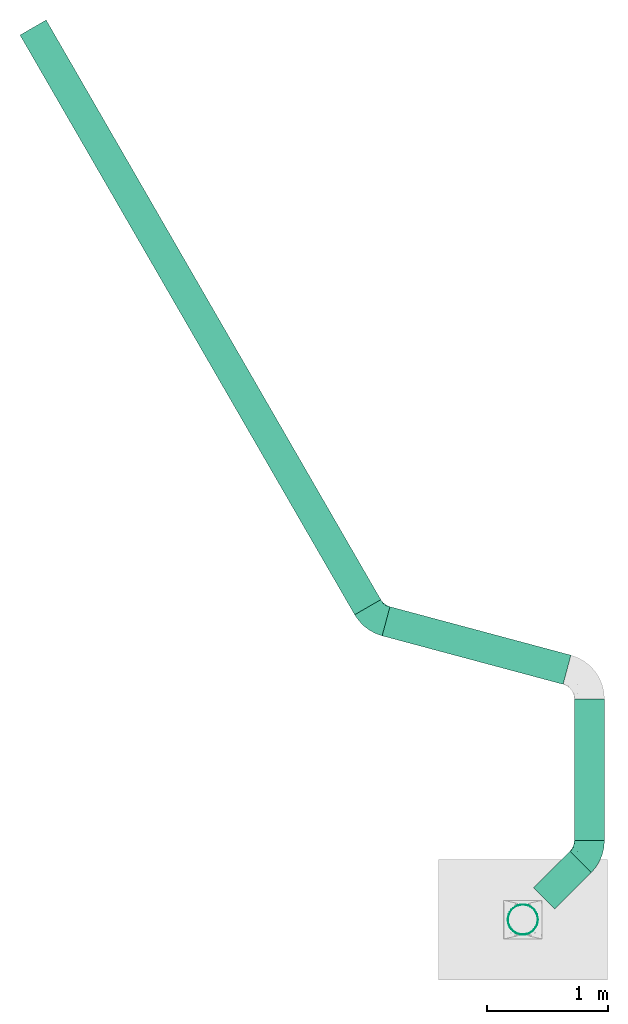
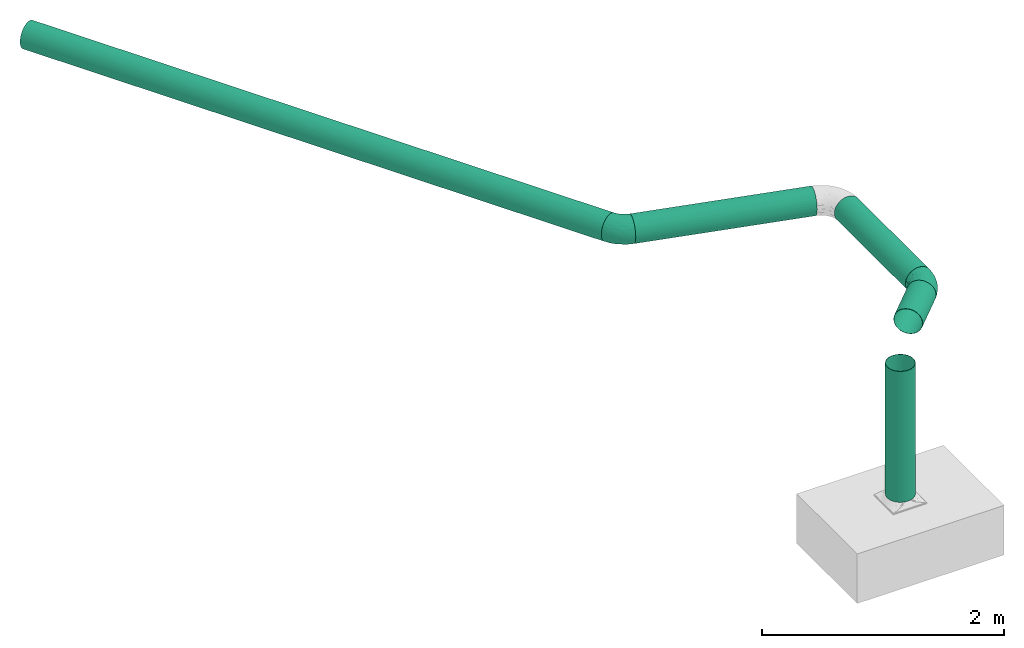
# One storey, part 1 of 3: 5 flow segments, 2 flow fittings.
"""IFC2X3 building model written with IfcOpenShell, lengths in millimetres."""

from ifc_helpers import new_model, entity, si_unit, converted_unit, derived_unit, direction, frame, origin_with_axes, origin_2d_with_axis, place, context, subcontext, project, spatial, hollow_circle, extrude, open_shell, surface_model, source, transform, mapped, type_object, element, save


model = new_model("IFC2X3")

# Units and contexts
model_context = context("Model", 3, precision=0.01, world=frame((0.0, 4.29681676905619e-09, 0.0)), true_north=direction((4.01073788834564e-13, 1.0)))
plan_context = context("Plan", 3, precision=0.01, world=frame((0.0, 4.29681676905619e-09, 0.0)), true_north=direction((4.01073788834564e-13, 1.0)))
body_context = subcontext(model_context, "Body", "Model", "MODEL_VIEW")
ifc_project = project(units=[converted_unit("PLANEANGLEUNIT", "DEGREE", entity("IfcPositiveLengthMeasure", 0.0174532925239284), si_unit("PLANEANGLEUNIT", "RADIAN"), dimensions=[0, 0, 0, 0, 0, 0, 0]), si_unit("AREAUNIT", "SQUARE_METRE"), si_unit("LENGTHUNIT", "METRE", prefix="MILLI"), si_unit("MASSUNIT", "GRAM", prefix="KILO"), si_unit("POWERUNIT", "WATT"), si_unit("PRESSUREUNIT", "PASCAL", prefix="KILO"), si_unit("FORCEUNIT", "NEWTON", prefix="KILO"), si_unit("ELECTRICVOLTAGEUNIT", "VOLT"), si_unit("ELECTRICCURRENTUNIT", "AMPERE"), si_unit("THERMODYNAMICTEMPERATUREUNIT", "DEGREE_CELSIUS"), si_unit("TIMEUNIT", "SECOND"), si_unit("VOLUMEUNIT", "CUBIC_METRE"), derived_unit("LINEARVELOCITYUNIT", [(si_unit("LENGTHUNIT", "METRE"), 1), (si_unit("TIMEUNIT", "SECOND"), -1)]), derived_unit("VOLUMETRICFLOWRATEUNIT", [(si_unit("VOLUMEUNIT", "CUBIC_METRE"), 1), (si_unit("TIMEUNIT", "SECOND"), -1)]), derived_unit("THERMALTRANSMITTANCEUNIT", [(si_unit("POWERUNIT", "WATT"), 1), (si_unit("THERMODYNAMICTEMPERATUREUNIT", "KELVIN"), -1), (si_unit("AREAUNIT", "SQUARE_METRE"), -1)]), derived_unit("SOUNDPRESSUREUNIT", [(si_unit("PRESSUREUNIT", "PASCAL"), 1)])], contexts=[model_context, plan_context])

# Site, building, storey
site_placement = place(None, frame((0.0, -4.29681676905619e-09, 0.0), z_axis=(0.0, 0.0, 1.0), x_axis=(1.0, 0.0, 0.0)))
site = spatial("IfcSite", under=ifc_project, at=site_placement, CompositionType="ELEMENT")
building_placement = place(site_placement, frame((0.0, 4.29681676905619e-09, 0.0), z_axis=(0.0, 0.0, 1.0), x_axis=(1.0, 0.0, 0.0)))
building = spatial("IfcBuilding", under=site, at=building_placement, Name="mc-building", CompositionType="ELEMENT")
storey_placement = place(building_placement, frame((0.0, 0.0, 210200.0), z_axis=(0.0, 0.0, 1.0), x_axis=(1.0, 0.0, 0.0)))
storey = spatial("IfcBuildingStorey", under=building, at=storey_placement, Name="Nivå F -0,7m", CompositionType="ELEMENT", Elevation=210200.0)

# Flow fittings
duct_fitting_type = type_object("IfcDuctFittingType", Name="magicirc_elbow_full_radius_001", PredefinedType="BEND")
shared_shape_1 = source(origin_with_axes(), body_context, "Body", "SurfaceModel", [
    surface_model("IfcShellBasedSurfaceModel", [(-103.55339, -125.0, 0.0), (-103.55339, 125.0, 0.0), (-103.55339, 120.74073, -32.35238), (-103.55339, 108.25318, 62.5), (-103.55339, 120.74073, 32.35238), (-103.55339, 32.35238, 120.74073), (-103.55339, 62.5, 108.25318), (-103.55339, 88.38835, 88.38835), (-103.55339, -32.35238, 120.74073), (-103.55339, 0.0, 125.0), (-103.55339, -62.5, 108.25318), (158.59989, -12.15328, 32.35238), (135.7233, 10.7233, 88.38835), (149.76986, -3.32325, 62.5), (117.41748, 29.02913, 108.25318), (73.22331, 73.22331, 125.0), (96.09989, 50.34672, 120.74073), (-103.55339, -88.38835, 88.38835), (-103.55339, -108.25318, 62.5), (-71.42232, -99.6447, 73.48578), (-44.89046, -120.38313, 0.0), (-57.05973, -120.17346, 21.81428), (92.48445, -15.44439, 96.05752), (-13.29539, -72.83948, 91.44783), (-35.41638, -46.54877, 112.60163), (-53.05843, -76.2135, 95.96477), (-52.80866, -113.87358, 42.93527), (-29.95223, -95.81654, 69.99912), (50.34672, 96.09989, 120.74073), (13.30108, 79.99157, 117.1107), (23.75752, 46.96611, 124.57055), (-74.52069, -49.18357, 114.30556), (-3.32325, 149.76986, 62.5), (-30.68612, 132.62981, 55.80824), (-18.08865, 125.15355, 76.6992), (-50.00916, 16.41095, 124.57055), (-57.84997, -17.26168, 123.19921), (7.53427, -3.80061, 122.03869), (-7.67262, -103.64817, 45.52456), (-22.71583, -114.22791, 21.7641), (13.74429, -103.59286, 24.67287), (116.86608, -53.38137, 0.0), (132.63386, -38.79725, 21.82774), (89.76989, -68.58123, 24.1251), (-60.49109, 116.04155, 60.66825), (-103.55339, -120.74073, 32.35238), (-65.96787, 47.1573, 117.1107), (17.35339, -34.13906, 110.3101), (62.29865, -4.48678, 112.84863), (-76.94339, 99.37776, 78.78589), (-22.72242, 54.85677, 118.83277), (47.3214, -70.36624, 69.17354), (88.93194, -46.57311, 69.99912), (54.20915, -33.92888, 100.13866), (-53.63107, 129.47687, 36.5183), (-71.20101, 129.25927, 0.0), (49.51939, -90.30119, 21.46261), (84.91582, -62.92829, 48.27731), (-41.05339, 141.74683, 0.0), (-12.15328, 158.59989, 32.35238), (-60.64711, 77.02175, 102.33599), (-43.93846, 106.07682, 82.14525), (36.83138, -88.91881, 44.41504), (53.11195, 28.70025, 123.19921), (117.86215, -43.17942, 42.93527), (161.61165, -15.16504, 0.0), (8.25832, -82.08292, 74.46222), (120.96265, -19.95623, 73.48578), (29.02913, 117.41748, 108.25318), (-12.4895, 30.15232, 124.41894), (-15.16504, 161.61165, 0.0), (-11.57862, 97.34658, 102.33599), (10.7233, 135.7233, 88.38835), (12.32798, -106.6462, 0.0), (66.69304, -84.12745, 0.0), (25.11389, -60.63029, 90.50113), (-103.55339, 88.38835, -88.38835), (-60.64711, 77.02175, -102.33599), (-103.55339, 62.5, -108.25318), (135.7233, 10.7233, -88.38835), (149.76986, -3.32325, -62.5), (120.96265, -19.95623, -73.48578), (-40.87917, -47.22443, -112.84863), (-103.55339, -62.5, -108.25318), (-103.55339, -32.35238, -120.74073), (73.22331, 73.22331, -125.0), (53.11196, 28.70025, -123.19921), (23.75752, 46.96611, -124.57055), (-103.55339, 0.0, -125.0), (-103.55339, 32.35238, -120.74073), (-50.00916, 16.41095, -124.57055), (50.34672, 96.09989, -120.74073), (-43.93846, 106.07682, -82.14525), (-11.57864, 97.34658, -102.33598), (-53.63107, 129.47687, -36.5183), (-70.8553, 115.19846, -56.91801), (-76.94339, 99.37776, -78.78589), (28.83707, -98.86808, -21.46261), (-14.98266, -111.97115, -24.12509), (-15.54752, -104.54157, -48.2773), (10.7233, 135.7233, -88.38835), (29.02913, 117.41748, -108.25318), (-52.80866, -113.87358, -42.93527), (-103.55339, -108.25318, -62.5), (-71.42232, -99.6447, -73.48578), (117.86215, -43.17942, -42.93527), (78.71568, -67.86496, -45.52456), (88.93194, -46.57311, -69.99912), (-103.55339, -120.74073, -32.35238), (-66.3525, -121.22011, -21.82773), (-22.72243, 54.85676, -118.83278), (-54.47555, -76.31722, -96.05751), (-57.84997, -17.26168, -123.19921), (-2.64009, -8.01497, -122.03869), (-103.55339, -88.38835, -88.38835), (13.30107, 79.99157, -117.1107), (11.86926, -36.41067, -110.3101), (96.09989, 50.34672, -120.74073), (-12.15328, 158.59989, -32.35238), (-12.4895, 30.15232, -124.41894), (-36.53446, 126.27575, -60.66825), (-3.32325, 149.76986, -62.5), (-15.84865, 124.55254, -78.9227), (-103.55339, 108.25318, -62.5), (-65.96787, 47.1573, -117.1107), (158.59989, -12.15328, -32.35238), (117.41748, 29.02913, -108.25318), (87.47212, 17.91605, -114.30556), (57.95811, -7.87179, -112.60163), (91.40906, -16.37311, -95.96477), (36.83138, -88.91881, -44.41504), (52.20187, -63.88091, -74.46221), (-14.34032, -62.32301, -100.13866), (-29.95223, -95.81654, -69.99911), (96.83384, -64.70882, -21.7641), (63.53252, -82.9699, -24.67287), (16.29516, -83.21773, -69.17354), (125.32279, -44.62815, -21.81428), (60.90656, -42.10403, -91.44783), (25.11389, -60.63029, -90.50113)], [open_shell([[[0, 1, 2]], [[3, 4, 5]], [[5, 6, 7]], [[3, 5, 7]], [[8, 9, 10]], [[11, 12, 13]], [[14, 15, 16]], [[17, 18, 19]], [[0, 20, 21]], [[12, 14, 22]], [[23, 24, 25]], [[19, 26, 27]], [[28, 29, 30]], [[24, 31, 25]], [[32, 33, 34]], [[5, 9, 35]], [[36, 37, 35]], [[10, 31, 8]], [[38, 39, 40]], [[41, 42, 43]], [[3, 44, 4]], [[18, 45, 26]], [[5, 46, 6]], [[37, 47, 48]], [[49, 3, 7]], [[50, 46, 35]], [[24, 23, 47]], [[51, 52, 53]], [[4, 54, 55]], [[56, 43, 57]], [[55, 1, 4]], [[58, 54, 59]], [[26, 38, 27]], [[60, 61, 49]], [[53, 52, 22]], [[40, 56, 62]], [[10, 17, 25]], [[15, 30, 63]], [[9, 36, 35]], [[20, 39, 21]], [[15, 63, 16]], [[13, 64, 11]], [[16, 48, 14]], [[7, 6, 60]], [[11, 42, 65]], [[62, 66, 38]], [[48, 22, 14]], [[57, 43, 64]], [[13, 67, 64]], [[28, 68, 29]], [[26, 39, 38]], [[35, 69, 50]], [[55, 54, 58]], [[49, 44, 3]], [[70, 58, 59]], [[69, 37, 30]], [[59, 54, 33]], [[61, 60, 71]], [[72, 71, 68]], [[46, 60, 6]], [[54, 44, 33]], [[50, 29, 71]], [[34, 71, 72]], [[28, 30, 15]], [[63, 37, 48]], [[50, 71, 60]], [[67, 13, 12]], [[42, 11, 64]], [[9, 8, 36]], [[19, 25, 17]], [[27, 66, 23]], [[53, 22, 48]], [[67, 22, 52]], [[31, 36, 8]], [[37, 36, 24]], [[37, 63, 30]], [[48, 16, 63]], [[35, 46, 5]], [[60, 46, 50]], [[71, 29, 68]], [[30, 29, 50]], [[21, 39, 26]], [[66, 62, 51]], [[20, 73, 39]], [[40, 39, 73]], [[56, 73, 74]], [[62, 38, 40]], [[73, 56, 40]], [[43, 56, 74]], [[41, 43, 74]], [[64, 52, 57]], [[51, 57, 52]], [[56, 57, 62]], [[26, 45, 21]], [[0, 21, 45]], [[60, 49, 7]], [[44, 49, 61]], [[61, 34, 33]], [[44, 54, 4]], [[61, 33, 44]], [[59, 33, 32]], [[71, 34, 61]], [[72, 32, 34]], [[24, 47, 37]], [[53, 47, 75]], [[47, 53, 48]], [[53, 75, 51]], [[26, 19, 18]], [[25, 19, 27]], [[22, 67, 12]], [[64, 67, 52]], [[25, 31, 10]], [[36, 31, 24]], [[66, 51, 75]], [[57, 51, 62]], [[23, 66, 75]], [[38, 66, 27]], [[23, 75, 47]], [[27, 23, 25]], [[37, 69, 35]], [[30, 50, 69]], [[43, 42, 64]], [[65, 42, 41]], [[76, 77, 78]], [[79, 80, 81]], [[82, 83, 84]], [[85, 86, 87]], [[88, 89, 90]], [[91, 85, 87]], [[1, 55, 2]], [[92, 93, 77]], [[2, 55, 94]], [[2, 94, 95]], [[95, 92, 96]], [[97, 98, 99]], [[100, 101, 93]], [[76, 96, 77]], [[102, 103, 104]], [[105, 106, 107]], [[0, 108, 109]], [[110, 77, 93]], [[111, 83, 82]], [[112, 113, 82]], [[111, 114, 83]], [[20, 109, 98]], [[115, 93, 101]], [[102, 108, 103]], [[112, 84, 88]], [[114, 104, 103]], [[113, 116, 82]], [[85, 117, 86]], [[55, 58, 94]], [[109, 108, 102]], [[58, 70, 118]], [[119, 90, 110]], [[120, 92, 95]], [[120, 118, 121]], [[122, 92, 120]], [[96, 76, 123]], [[93, 92, 122]], [[112, 88, 90]], [[87, 110, 115]], [[89, 124, 90]], [[101, 91, 115]], [[78, 124, 89]], [[80, 125, 105]], [[117, 126, 127]], [[128, 127, 129]], [[130, 131, 106]], [[132, 133, 111]], [[134, 135, 106]], [[97, 130, 135]], [[86, 113, 87]], [[107, 81, 105]], [[136, 133, 132]], [[41, 137, 65]], [[110, 124, 77]], [[119, 113, 90]], [[129, 138, 128]], [[128, 138, 116]], [[126, 79, 129]], [[105, 134, 106]], [[94, 58, 118]], [[99, 98, 102]], [[41, 134, 137]], [[81, 129, 79]], [[107, 131, 138]], [[132, 111, 82]], [[104, 111, 133]], [[127, 86, 117]], [[113, 86, 128]], [[113, 112, 90]], [[82, 84, 112]], [[77, 124, 78]], [[90, 124, 110]], [[87, 115, 91]], [[93, 115, 110]], [[137, 134, 105]], [[131, 130, 136]], [[41, 74, 134]], [[135, 134, 74]], [[97, 74, 73]], [[130, 106, 135]], [[74, 97, 135]], [[98, 97, 73]], [[20, 98, 73]], [[102, 133, 99]], [[136, 99, 133]], [[97, 99, 130]], [[105, 125, 137]], [[65, 137, 125]], [[95, 96, 123]], [[77, 96, 92]], [[2, 95, 123]], [[95, 94, 120]], [[118, 120, 94]], [[122, 121, 100]], [[121, 122, 120]], [[93, 122, 100]], [[128, 116, 113]], [[132, 116, 139]], [[116, 132, 82]], [[132, 139, 136]], [[105, 81, 80]], [[129, 81, 107]], [[111, 104, 114]], [[102, 104, 133]], [[129, 127, 126]], [[86, 127, 128]], [[131, 136, 139]], [[99, 136, 130]], [[138, 131, 139]], [[106, 131, 107]], [[138, 139, 116]], [[107, 138, 129]], [[110, 87, 119]], [[113, 119, 87]], [[98, 109, 102]], [[0, 109, 20]], [[89, 88, 76]], [[78, 89, 76]], [[2, 123, 76]], [[84, 76, 88]], [[2, 76, 84]], [[83, 114, 84]], [[114, 2, 84]], [[103, 108, 114]], [[0, 114, 108]], [[114, 0, 2]], [[1, 10, 4]], [[5, 4, 10]], [[18, 17, 45]], [[45, 17, 0]], [[17, 10, 0]], [[10, 9, 5]], [[10, 1, 0]], [[91, 79, 85]], [[100, 91, 101]], [[100, 121, 118]], [[91, 100, 79]], [[79, 100, 14]], [[117, 79, 126]], [[117, 85, 79]], [[79, 125, 80]], [[125, 79, 65]], [[79, 12, 65]], [[100, 118, 14]], [[59, 72, 118]], [[72, 59, 32]], [[14, 118, 68]], [[118, 72, 68]], [[15, 68, 28]], [[65, 12, 11]], [[12, 79, 14]], [[15, 14, 68]], [[59, 118, 70]]])]),
])
for number, where, z_axis, x_axis, name in (
    (1, (725817.14904, 441314.79004, 4930.0), (0.0, 0.0, 1.0), (0.500000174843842, -0.866025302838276, 0.0), "magicirc_elbow_full_radius_001"),
    (2, (727601.95745, 439366.23847, 4930.0), (0.0, 0.0, 1.0), (0.707106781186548, 0.707106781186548, 0.0), "magicirc_elbow_full_radius_001"),
):
    element("IfcFlowFitting", number, at=place(storey_placement, frame(where, z_axis=z_axis, x_axis=x_axis)), inside=storey, type_object=duct_fitting_type, Name=name, context=body_context, shape_type="MappedRepresentation", body=[
        mapped(shared_shape_1, transform((0.0, 0.0, 0.0), scale=1.0)),
    ])

# Flow segments
duct_segment_type = type_object("IfcDuctSegmentType", Name="KK001T - Spiro kanaler, Forsinket stål", PredefinedType="RIGIDSEGMENT")
shared_shape_2 = source(origin_with_axes(), body_context, "Body", "SweptSolid", [
    extrude(hollow_circle(Radius=125.0, WallThickness=2.0, at=origin_2d_with_axis()), frame((0.0, 0.0, 0.0), z_axis=(1.0, 0.0, 0.0), x_axis=(0.0, 1.0, 0.0)), (0.0, 0.0, 1.0), 425.2),
])
flow_segment_1_placement = place(storey_placement, frame((727228.07847, 438992.35948, 4930.0), z_axis=(0.0, 0.0, 1.0), x_axis=(0.707106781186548, 0.707106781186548, 0.0)))
element("IfcFlowSegment", 3, at=flow_segment_1_placement, inside=storey, type_object=duct_segment_type, Name="KK001T - Spiro kanaler, Forsinket stål", context=body_context, shape_type="MappedRepresentation", body=[
    mapped(shared_shape_2, transform((0.0, 0.0, 0.0), scale=1.0)),
])
shared_shape_3 = source(origin_with_axes(), body_context, "Body", "SweptSolid", [
    extrude(hollow_circle(Radius=125.0, WallThickness=2.0, at=origin_2d_with_axis()), frame((0.0, 0.0, 0.0), z_axis=(1.0, 0.0, 0.0), x_axis=(0.0, 1.0, 0.0)), (0.0, 0.0, 1.0), 1174.9),
])
flow_segment_2_placement = place(storey_placement, frame((727601.95745, 439469.79186, 4930.0), z_axis=(0.0, 0.0, 1.0), x_axis=(0.0, 1.0, 0.0)))
element("IfcFlowSegment", 4, at=flow_segment_2_placement, inside=storey, type_object=duct_segment_type, Name="KK001T - Spiro kanaler, Forsinket stål", context=body_context, shape_type="MappedRepresentation", body=[
    mapped(shared_shape_3, transform((0.0, 0.0, 0.0), scale=1.0)),
])
shared_shape_4 = source(origin_with_axes(), body_context, "Body", "SweptSolid", [
    extrude(hollow_circle(Radius=125.0, WallThickness=2.0, at=origin_2d_with_axis()), frame((0.0, 0.0, 0.0), z_axis=(1.0, 0.0, 0.0), x_axis=(0.0, 1.0, 0.0)), (0.0, 0.0, 1.0), 1552.4),
])
flow_segment_3_placement = place(storey_placement, frame((727416.66221, 440886.20177, 4930.0), z_axis=(0.0, 0.0, 1.0), x_axis=(-0.965925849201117, 0.258818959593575, 0.0)))
element("IfcFlowSegment", 5, at=flow_segment_3_placement, inside=storey, type_object=duct_segment_type, Name="KK001T - Spiro kanaler, Forsinket stål", context=body_context, shape_type="MappedRepresentation", body=[
    mapped(shared_shape_4, transform((0.0, 0.0, 0.0), scale=1.0)),
])
shared_shape_5 = source(origin_with_axes(), body_context, "Body", "SweptSolid", [
    extrude(hollow_circle(Radius=125.0, WallThickness=2.0, at=origin_2d_with_axis()), frame((0.0, 0.0, 0.0), z_axis=(1.0, 0.0, 0.0), x_axis=(0.0, 1.0, 0.0)), (0.0, 0.0, 1.0), 5545.9),
])
flow_segment_4_placement = place(storey_placement, frame((725765.37234, 441404.4699, 4930.0), z_axis=(0.0, 0.0, 1.0), x_axis=(-0.500000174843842, 0.866025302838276, 0.0)))
element("IfcFlowSegment", 6, at=flow_segment_4_placement, inside=storey, type_object=duct_segment_type, Name="KK001T - Spiro kanaler, Forsinket stål", context=body_context, shape_type="MappedRepresentation", body=[
    mapped(shared_shape_5, transform((0.0, 0.0, 0.0), scale=1.0)),
])
shared_shape_6 = source(origin_with_axes(), body_context, "Body", "SweptSolid", [
    extrude(hollow_circle(Radius=125.0, WallThickness=2.0, at=origin_2d_with_axis()), frame((0.0, 0.0, 0.0), z_axis=(1.0, 0.0, 0.0), x_axis=(0.0, 1.0, 0.0)), (0.0, 0.0, 1.0), 1320.0),
])
flow_segment_5_placement = place(storey_placement, frame((727051.30177, 438815.58279, 4680.0), z_axis=(1.0, 0.0, 0.0), x_axis=(0.0, 0.0, -1.0)))
element("IfcFlowSegment", 7, at=flow_segment_5_placement, inside=storey, type_object=duct_segment_type, Name="KK001T - Spiro kanaler, Forsinket stål", context=body_context, shape_type="MappedRepresentation", body=[
    mapped(shared_shape_6, transform((0.0, 0.0, 0.0), scale=1.0)),
])

save(model, "model.ifc")
